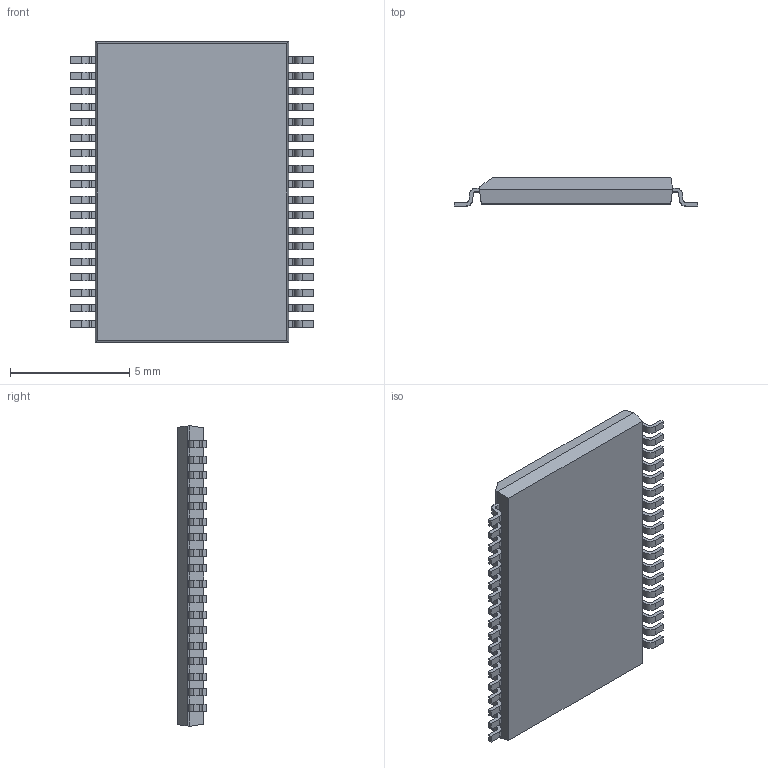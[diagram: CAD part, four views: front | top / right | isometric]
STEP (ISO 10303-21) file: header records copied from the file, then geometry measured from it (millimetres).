
FILE_DESCRIPTION (( 'STEP AP214' ), '1' );
FILE_NAME ('TSOP65P1000X120-36_MO-153.GC.STEP', '2014-10-29T08:18:57', ( 'Tester2' ), ( '' ), 'SwSTEP 2.0', 'SolidWorks 2012', '' );
FILE_SCHEMA (( 'AUTOMOTIVE_DESIGN' ));
Length unit declared in the file: millimetre
Products named in the file (1): TSOP65P1000X120-36_MO-153.GC
Bounding box: 10.2 x 1.2 x 12.6 mm (x, y, z)
Volume: 111.7 mm3; surface area: 288.2 mm2
Topology: 1 solids, 1 shells, 482 faces, 1433 edges, 954 vertices
Faces by surface type: plane 336, cylinder 146
Entity records: 21312 total; most frequent: CARTESIAN_POINT 2870, ORIENTED_EDGE 2866, DIRECTION 2691, EDGE_CURVE 1433, VECTOR 1141, LINE 1141, VERTEX_POINT 954, AXIS2_PLACEMENT_3D 775
